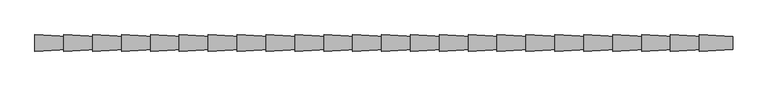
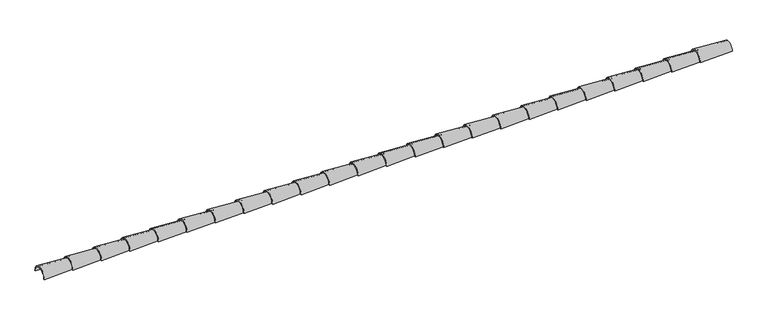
"""IFC4 building model written with IfcOpenShell, lengths in millimetres: proxy geometry, Tuile de faitage & aretier : Tuile de faitage & aretier."""

from ifc_helpers import new_model, si_unit, frame, origin, place, context, project, spatial, polyline, circle_curve, source, transform, mapped, element, save
from ifc_brep_helpers import plane_surface, revolved_surface, advanced_brep


def generic_models_c45b75ca(model_context):
    return source(origin(), model_context, "Body", "AdvancedBrep", [
        advanced_brep(
        [(24042.3188406, -80.0, 0.0), (24042.3188406, -70.0, 0.0), (24042.3188406, 70.0, 0.0), (24042.3188406, 80.0, 0.0), (23642.3188406, -100.0, 0.0), (23642.3188406, 100.0, 0.0), (23642.3188406, 90.0, 0.0), (23642.3188406, -90.0, 0.0)],
        [
            (0, 1),
            (1, 2, circle_curve(frame((24042.3188406, 0.0, 0.0), z_axis=(-1.0, 0.0, 0.0), x_axis=(0.0, -1.0, 0.0)), 70.0)),
            (2, 3),
            (3, 0, circle_curve(frame((24042.3188406, 0.0, 0.0), z_axis=(1.0, 0.0, 0.0), x_axis=(0.0, 1.0, 0.0)), 80.0)),
            (4, 5, circle_curve(frame((23642.3188406, 0.0, 0.0), z_axis=(-1.0, 0.0, 0.0), x_axis=(0.0, 1.0, 0.0)), 100.0)),
            (5, 6),
            (6, 7, circle_curve(frame((23642.3188406, 0.0, 0.0), z_axis=(1.0, 0.0, 0.0), x_axis=(0.0, -1.0, 0.0)), 90.0)),
            (7, 4),
            (7, 1),
            (0, 4),
            (6, 2),
            (5, 3),
        ],
        [
            plane_surface(frame((24042.3188406, 0.0, 0.0), z_axis=(1.0, 0.0, 0.0), x_axis=(0.0, 1.0, -1.4291631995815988e-12))),
            plane_surface(frame((23642.3188406, 0.0, 0.0), z_axis=(-1.0, 0.0, 0.0), x_axis=(0.0, 1.0, -1.4291631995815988e-12))),
            plane_surface(frame((23642.3188406, -95.0, 0.0), z_axis=(0.0, -1.4291631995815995e-12, -1.0), x_axis=(0.0, 1.0, -1.4291631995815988e-12))),
            revolved_surface(polyline([(23642.3188406, -90.0, 0.0), (24042.3188406, -70.0, 0.0)]), (25442.3188406, 0.0, 0.0), (-1.0, 0.0, 0.0)),
            plane_surface(frame((23642.3188406, 95.0, 0.0), z_axis=(0.0, 0.0, -1.0), x_axis=(0.0, 1.0, 0.0))),
            revolved_surface(polyline([(24042.3188406, 80.0, 0.0), (23642.3188406, 100.0, 0.0)]), (25642.3188406, 0.0, 0.0), (-1.0, 0.0, 0.0)),
        ],
        [
            (0, [[1, 2, 3, 4]]),
            (1, [[5, 6, 7, 8]]),
            (2, [[-8, 9, -1, 10]]),
            (3, [[-7, 11, -2, -9]]),
            (4, [[-6, 12, -3, -11]]),
            (5, [[-5, -10, -4, -12]]),
        ],
    ),
        advanced_brep(
        [(23694.6376812, -80.0, 0.0), (23694.6376812, -70.0, 0.0), (23694.6376812, 70.0, 0.0), (23694.6376812, 80.0, 0.0), (23294.6376812, -100.0, 0.0), (23294.6376812, 100.0, 0.0), (23294.6376812, 90.0, 0.0), (23294.6376812, -90.0, 0.0)],
        [
            (0, 1),
            (1, 2, circle_curve(frame((23694.6376812, 0.0, 0.0), z_axis=(-1.0, 0.0, 0.0), x_axis=(0.0, -1.0, 0.0)), 70.0)),
            (2, 3),
            (3, 0, circle_curve(frame((23694.6376812, 0.0, 0.0), z_axis=(1.0, 0.0, 0.0), x_axis=(0.0, 1.0, 0.0)), 80.0)),
            (4, 5, circle_curve(frame((23294.6376812, 0.0, 0.0), z_axis=(-1.0, 0.0, 0.0), x_axis=(0.0, 1.0, 0.0)), 100.0)),
            (5, 6),
            (6, 7, circle_curve(frame((23294.6376812, 0.0, 0.0), z_axis=(1.0, 0.0, 0.0), x_axis=(0.0, -1.0, 0.0)), 90.0)),
            (7, 4),
            (7, 1),
            (0, 4),
            (6, 2),
            (5, 3),
        ],
        [
            plane_surface(frame((23694.6376812, 0.0, 0.0), z_axis=(1.0, 0.0, 0.0), x_axis=(0.0, 1.0, -1.4291631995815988e-12))),
            plane_surface(frame((23294.6376812, 0.0, 0.0), z_axis=(-1.0, 0.0, 0.0), x_axis=(0.0, 1.0, -1.4291631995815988e-12))),
            plane_surface(frame((23294.6376812, -95.0, 0.0), z_axis=(0.0, -1.4291631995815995e-12, -1.0), x_axis=(0.0, 1.0, -1.4291631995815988e-12))),
            revolved_surface(polyline([(23294.6376812, -90.0, 0.0), (23694.6376812, -70.0, 0.0)]), (25094.6376812, 0.0, 0.0), (-1.0, 0.0, 0.0)),
            plane_surface(frame((23294.6376812, 95.0, 0.0), z_axis=(0.0, 0.0, -1.0), x_axis=(0.0, 1.0, 0.0))),
            revolved_surface(polyline([(23694.6376812, 80.0, 0.0), (23294.6376812, 100.0, 0.0)]), (25294.6376812, 0.0, 0.0), (-1.0, 0.0, 0.0)),
        ],
        [
            (0, [[1, 2, 3, 4]]),
            (1, [[5, 6, 7, 8]]),
            (2, [[-8, 9, -1, 10]]),
            (3, [[-7, 11, -2, -9]]),
            (4, [[-6, 12, -3, -11]]),
            (5, [[-5, -10, -4, -12]]),
        ],
    ),
        advanced_brep(
        [(23346.9565217, -80.0, 0.0), (23346.9565217, -70.0, 0.0), (23346.9565217, 70.0, 0.0), (23346.9565217, 80.0, 0.0), (22946.9565217, -100.0, 0.0), (22946.9565217, 100.0, 0.0), (22946.9565217, 90.0, 0.0), (22946.9565217, -90.0, 0.0)],
        [
            (0, 1),
            (1, 2, circle_curve(frame((23346.9565217, 0.0, 0.0), z_axis=(-1.0, 0.0, 0.0), x_axis=(0.0, -1.0, 0.0)), 70.0)),
            (2, 3),
            (3, 0, circle_curve(frame((23346.9565217, 0.0, 0.0), z_axis=(1.0, 0.0, 0.0), x_axis=(0.0, 1.0, 0.0)), 80.0)),
            (4, 5, circle_curve(frame((22946.9565217, 0.0, 0.0), z_axis=(-1.0, 0.0, 0.0), x_axis=(0.0, 1.0, 0.0)), 100.0)),
            (5, 6),
            (6, 7, circle_curve(frame((22946.9565217, 0.0, 0.0), z_axis=(1.0, 0.0, 0.0), x_axis=(0.0, -1.0, 0.0)), 90.0)),
            (7, 4),
            (7, 1),
            (0, 4),
            (6, 2),
            (5, 3),
        ],
        [
            plane_surface(frame((23346.9565217, 0.0, 0.0), z_axis=(1.0, 0.0, 0.0), x_axis=(0.0, 1.0, -1.4291631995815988e-12))),
            plane_surface(frame((22946.9565217, 0.0, 0.0), z_axis=(-1.0, 0.0, 0.0), x_axis=(0.0, 1.0, -1.4291631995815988e-12))),
            plane_surface(frame((22946.9565217, -95.0, 0.0), z_axis=(0.0, -1.4291631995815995e-12, -1.0), x_axis=(0.0, 1.0, -1.4291631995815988e-12))),
            revolved_surface(polyline([(22946.9565217, -90.0, 0.0), (23346.9565217, -70.0, 0.0)]), (24746.9565217, 0.0, 0.0), (-1.0, 0.0, 0.0)),
            plane_surface(frame((22946.9565217, 95.0, 0.0), z_axis=(0.0, 0.0, -1.0), x_axis=(0.0, 1.0, 0.0))),
            revolved_surface(polyline([(23346.9565217, 80.0, 0.0), (22946.9565217, 100.0, 0.0)]), (24946.9565217, 0.0, 0.0), (-1.0, 0.0, 0.0)),
        ],
        [
            (0, [[1, 2, 3, 4]]),
            (1, [[5, 6, 7, 8]]),
            (2, [[-8, 9, -1, 10]]),
            (3, [[-7, 11, -2, -9]]),
            (4, [[-6, 12, -3, -11]]),
            (5, [[-5, -10, -4, -12]]),
        ],
    ),
        advanced_brep(
        [(22999.2753623, -80.0, 0.0), (22999.2753623, -70.0, 0.0), (22999.2753623, 70.0, 0.0), (22999.2753623, 80.0, 0.0), (22599.2753623, -100.0, 0.0), (22599.2753623, 100.0, 0.0), (22599.2753623, 90.0, 0.0), (22599.2753623, -90.0, 0.0)],
        [
            (0, 1),
            (1, 2, circle_curve(frame((22999.2753623, 0.0, 0.0), z_axis=(-1.0, 0.0, 0.0), x_axis=(0.0, -1.0, 0.0)), 70.0)),
            (2, 3),
            (3, 0, circle_curve(frame((22999.2753623, 0.0, 0.0), z_axis=(1.0, 0.0, 0.0), x_axis=(0.0, 1.0, 0.0)), 80.0)),
            (4, 5, circle_curve(frame((22599.2753623, 0.0, 0.0), z_axis=(-1.0, 0.0, 0.0), x_axis=(0.0, 1.0, 0.0)), 100.0)),
            (5, 6),
            (6, 7, circle_curve(frame((22599.2753623, 0.0, 0.0), z_axis=(1.0, 0.0, 0.0), x_axis=(0.0, -1.0, 0.0)), 90.0)),
            (7, 4),
            (7, 1),
            (0, 4),
            (6, 2),
            (5, 3),
        ],
        [
            plane_surface(frame((22999.2753623, 0.0, 0.0), z_axis=(1.0, 0.0, 0.0), x_axis=(0.0, 1.0, -1.4291631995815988e-12))),
            plane_surface(frame((22599.2753623, 0.0, 0.0), z_axis=(-1.0, 0.0, 0.0), x_axis=(0.0, 1.0, -1.4291631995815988e-12))),
            plane_surface(frame((22599.2753623, -95.0, 0.0), z_axis=(0.0, -1.4291631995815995e-12, -1.0), x_axis=(0.0, 1.0, -1.4291631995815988e-12))),
            revolved_surface(polyline([(22599.2753623, -90.0, 0.0), (22999.2753623, -70.0, 0.0)]), (24399.2753623, 0.0, 0.0), (-1.0, 0.0, 0.0)),
            plane_surface(frame((22599.2753623, 95.0, 0.0), z_axis=(0.0, 0.0, -1.0), x_axis=(0.0, 1.0, 0.0))),
            revolved_surface(polyline([(22999.2753623, 80.0, 0.0), (22599.2753623, 100.0, 0.0)]), (24599.2753623, 0.0, 0.0), (-1.0, 0.0, 0.0)),
        ],
        [
            (0, [[1, 2, 3, 4]]),
            (1, [[5, 6, 7, 8]]),
            (2, [[-8, 9, -1, 10]]),
            (3, [[-7, 11, -2, -9]]),
            (4, [[-6, 12, -3, -11]]),
            (5, [[-5, -10, -4, -12]]),
        ],
    ),
        advanced_brep(
        [(22651.5942029, -80.0, 0.0), (22651.5942029, -70.0, 0.0), (22651.5942029, 70.0, 0.0), (22651.5942029, 80.0, 0.0), (22251.5942029, -100.0, 0.0), (22251.5942029, 100.0, 0.0), (22251.5942029, 90.0, 0.0), (22251.5942029, -90.0, 0.0)],
        [
            (0, 1),
            (1, 2, circle_curve(frame((22651.5942029, 0.0, 0.0), z_axis=(-1.0, 0.0, 0.0), x_axis=(0.0, -1.0, 0.0)), 70.0)),
            (2, 3),
            (3, 0, circle_curve(frame((22651.5942029, 0.0, 0.0), z_axis=(1.0, 0.0, 0.0), x_axis=(0.0, 1.0, 0.0)), 80.0)),
            (4, 5, circle_curve(frame((22251.5942029, 0.0, 0.0), z_axis=(-1.0, 0.0, 0.0), x_axis=(0.0, 1.0, 0.0)), 100.0)),
            (5, 6),
            (6, 7, circle_curve(frame((22251.5942029, 0.0, 0.0), z_axis=(1.0, 0.0, 0.0), x_axis=(0.0, -1.0, 0.0)), 90.0)),
            (7, 4),
            (7, 1),
            (0, 4),
            (6, 2),
            (5, 3),
        ],
        [
            plane_surface(frame((22651.5942029, 0.0, 0.0), z_axis=(1.0, 0.0, 0.0), x_axis=(0.0, 1.0, -1.4291631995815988e-12))),
            plane_surface(frame((22251.5942029, 0.0, 0.0), z_axis=(-1.0, 0.0, 0.0), x_axis=(0.0, 1.0, -1.4291631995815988e-12))),
            plane_surface(frame((22251.5942029, -95.0, 0.0), z_axis=(0.0, -1.4291631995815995e-12, -1.0), x_axis=(0.0, 1.0, -1.4291631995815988e-12))),
            revolved_surface(polyline([(22251.5942029, -90.0, 0.0), (22651.5942029, -70.0, 0.0)]), (24051.5942029, 0.0, 0.0), (-1.0, 0.0, 0.0)),
            plane_surface(frame((22251.5942029, 95.0, 0.0), z_axis=(0.0, 0.0, -1.0), x_axis=(0.0, 1.0, 0.0))),
            revolved_surface(polyline([(22651.5942029, 80.0, 0.0), (22251.5942029, 100.0, 0.0)]), (24251.5942029, 0.0, 0.0), (-1.0, 0.0, 0.0)),
        ],
        [
            (0, [[1, 2, 3, 4]]),
            (1, [[5, 6, 7, 8]]),
            (2, [[-8, 9, -1, 10]]),
            (3, [[-7, 11, -2, -9]]),
            (4, [[-6, 12, -3, -11]]),
            (5, [[-5, -10, -4, -12]]),
        ],
    ),
        advanced_brep(
        [(22303.9130435, -80.0, 0.0), (22303.9130435, -70.0, 0.0), (22303.9130435, 70.0, 0.0), (22303.9130435, 80.0, 0.0), (21903.9130435, -100.0, 0.0), (21903.9130435, 100.0, 0.0), (21903.9130435, 90.0, 0.0), (21903.9130435, -90.0, 0.0)],
        [
            (0, 1),
            (1, 2, circle_curve(frame((22303.9130435, 0.0, 0.0), z_axis=(-1.0, 0.0, 0.0), x_axis=(0.0, -1.0, 0.0)), 70.0)),
            (2, 3),
            (3, 0, circle_curve(frame((22303.9130435, 0.0, 0.0), z_axis=(1.0, 0.0, 0.0), x_axis=(0.0, 1.0, 0.0)), 80.0)),
            (4, 5, circle_curve(frame((21903.9130435, 0.0, 0.0), z_axis=(-1.0, 0.0, 0.0), x_axis=(0.0, 1.0, 0.0)), 100.0)),
            (5, 6),
            (6, 7, circle_curve(frame((21903.9130435, 0.0, 0.0), z_axis=(1.0, 0.0, 0.0), x_axis=(0.0, -1.0, 0.0)), 90.0)),
            (7, 4),
            (7, 1),
            (0, 4),
            (6, 2),
            (5, 3),
        ],
        [
            plane_surface(frame((22303.9130435, 0.0, 0.0), z_axis=(1.0, 0.0, 0.0), x_axis=(0.0, 1.0, -1.4291631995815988e-12))),
            plane_surface(frame((21903.9130435, 0.0, 0.0), z_axis=(-1.0, 0.0, 0.0), x_axis=(0.0, 1.0, -1.4291631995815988e-12))),
            plane_surface(frame((21903.9130435, -95.0, 0.0), z_axis=(0.0, -1.4291631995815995e-12, -1.0), x_axis=(0.0, 1.0, -1.4291631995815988e-12))),
            revolved_surface(polyline([(21903.9130435, -90.0, 0.0), (22303.9130435, -70.0, 0.0)]), (23703.9130435, 0.0, 0.0), (-1.0, 0.0, 0.0)),
            plane_surface(frame((21903.9130435, 95.0, 0.0), z_axis=(0.0, 0.0, -1.0), x_axis=(0.0, 1.0, 0.0))),
            revolved_surface(polyline([(22303.9130435, 80.0, 0.0), (21903.9130435, 100.0, 0.0)]), (23903.9130435, 0.0, 0.0), (-1.0, 0.0, 0.0)),
        ],
        [
            (0, [[1, 2, 3, 4]]),
            (1, [[5, 6, 7, 8]]),
            (2, [[-8, 9, -1, 10]]),
            (3, [[-7, 11, -2, -9]]),
            (4, [[-6, 12, -3, -11]]),
            (5, [[-5, -10, -4, -12]]),
        ],
    ),
        advanced_brep(
        [(21956.2318841, -80.0, 0.0), (21956.2318841, -70.0, 0.0), (21956.2318841, 70.0, 0.0), (21956.2318841, 80.0, 0.0), (21556.2318841, -100.0, 0.0), (21556.2318841, 100.0, 0.0), (21556.2318841, 90.0, 0.0), (21556.2318841, -90.0, 0.0)],
        [
            (0, 1),
            (1, 2, circle_curve(frame((21956.2318841, 0.0, 0.0), z_axis=(-1.0, 0.0, 0.0), x_axis=(0.0, -1.0, 0.0)), 70.0)),
            (2, 3),
            (3, 0, circle_curve(frame((21956.2318841, 0.0, 0.0), z_axis=(1.0, 0.0, 0.0), x_axis=(0.0, 1.0, 0.0)), 80.0)),
            (4, 5, circle_curve(frame((21556.2318841, 0.0, 0.0), z_axis=(-1.0, 0.0, 0.0), x_axis=(0.0, 1.0, 0.0)), 100.0)),
            (5, 6),
            (6, 7, circle_curve(frame((21556.2318841, 0.0, 0.0), z_axis=(1.0, 0.0, 0.0), x_axis=(0.0, -1.0, 0.0)), 90.0)),
            (7, 4),
            (7, 1),
            (0, 4),
            (6, 2),
            (5, 3),
        ],
        [
            plane_surface(frame((21956.2318841, 0.0, 0.0), z_axis=(1.0, 0.0, 0.0), x_axis=(0.0, 1.0, -1.4291631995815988e-12))),
            plane_surface(frame((21556.2318841, 0.0, 0.0), z_axis=(-1.0, 0.0, 0.0), x_axis=(0.0, 1.0, -1.4291631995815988e-12))),
            plane_surface(frame((21556.2318841, -95.0, 0.0), z_axis=(0.0, -1.4291631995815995e-12, -1.0), x_axis=(0.0, 1.0, -1.4291631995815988e-12))),
            revolved_surface(polyline([(21556.2318841, -90.0, 0.0), (21956.2318841, -70.0, 0.0)]), (23356.2318841, 0.0, 0.0), (-1.0, 0.0, 0.0)),
            plane_surface(frame((21556.2318841, 95.0, 0.0), z_axis=(0.0, 0.0, -1.0), x_axis=(0.0, 1.0, 0.0))),
            revolved_surface(polyline([(21956.2318841, 80.0, 0.0), (21556.2318841, 100.0, 0.0)]), (23556.2318841, 0.0, 0.0), (-1.0, 0.0, 0.0)),
        ],
        [
            (0, [[1, 2, 3, 4]]),
            (1, [[5, 6, 7, 8]]),
            (2, [[-8, 9, -1, 10]]),
            (3, [[-7, 11, -2, -9]]),
            (4, [[-6, 12, -3, -11]]),
            (5, [[-5, -10, -4, -12]]),
        ],
    ),
        advanced_brep(
        [(21608.5507246, -80.0, 0.0), (21608.5507246, -70.0, 0.0), (21608.5507246, 70.0, 0.0), (21608.5507246, 80.0, 0.0), (21208.5507246, -100.0, 0.0), (21208.5507246, 100.0, 0.0), (21208.5507246, 90.0, 0.0), (21208.5507246, -90.0, 0.0)],
        [
            (0, 1),
            (1, 2, circle_curve(frame((21608.5507246, 0.0, 0.0), z_axis=(-1.0, 0.0, 0.0), x_axis=(0.0, -1.0, 0.0)), 70.0)),
            (2, 3),
            (3, 0, circle_curve(frame((21608.5507246, 0.0, 0.0), z_axis=(1.0, 0.0, 0.0), x_axis=(0.0, 1.0, 0.0)), 80.0)),
            (4, 5, circle_curve(frame((21208.5507246, 0.0, 0.0), z_axis=(-1.0, 0.0, 0.0), x_axis=(0.0, 1.0, 0.0)), 100.0)),
            (5, 6),
            (6, 7, circle_curve(frame((21208.5507246, 0.0, 0.0), z_axis=(1.0, 0.0, 0.0), x_axis=(0.0, -1.0, 0.0)), 90.0)),
            (7, 4),
            (7, 1),
            (0, 4),
            (6, 2),
            (5, 3),
        ],
        [
            plane_surface(frame((21608.5507246, 0.0, 0.0), z_axis=(1.0, 0.0, 0.0), x_axis=(0.0, 1.0, -1.4291631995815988e-12))),
            plane_surface(frame((21208.5507246, 0.0, 0.0), z_axis=(-1.0, 0.0, 0.0), x_axis=(0.0, 1.0, -1.4291631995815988e-12))),
            plane_surface(frame((21208.5507246, -95.0, 0.0), z_axis=(0.0, -1.4291631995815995e-12, -1.0), x_axis=(0.0, 1.0, -1.4291631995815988e-12))),
            revolved_surface(polyline([(21208.5507246, -90.0, 0.0), (21608.5507246, -70.0, 0.0)]), (23008.5507246, 0.0, 0.0), (-1.0, 0.0, 0.0)),
            plane_surface(frame((21208.5507246, 95.0, 0.0), z_axis=(0.0, 0.0, -1.0), x_axis=(0.0, 1.0, 0.0))),
            revolved_surface(polyline([(21608.5507246, 80.0, 0.0), (21208.5507246, 100.0, 0.0)]), (23208.5507246, 0.0, 0.0), (-1.0, 0.0, 0.0)),
        ],
        [
            (0, [[1, 2, 3, 4]]),
            (1, [[5, 6, 7, 8]]),
            (2, [[-8, 9, -1, 10]]),
            (3, [[-7, 11, -2, -9]]),
            (4, [[-6, 12, -3, -11]]),
            (5, [[-5, -10, -4, -12]]),
        ],
    ),
        advanced_brep(
        [(21260.8695652, -80.0, 0.0), (21260.8695652, -70.0, 0.0), (21260.8695652, 70.0, 0.0), (21260.8695652, 80.0, 0.0), (20860.8695652, -100.0, 0.0), (20860.8695652, 100.0, 0.0), (20860.8695652, 90.0, 0.0), (20860.8695652, -90.0, 0.0)],
        [
            (0, 1),
            (1, 2, circle_curve(frame((21260.8695652, 0.0, 0.0), z_axis=(-1.0, 0.0, 0.0), x_axis=(0.0, -1.0, 0.0)), 70.0)),
            (2, 3),
            (3, 0, circle_curve(frame((21260.8695652, 0.0, 0.0), z_axis=(1.0, 0.0, 0.0), x_axis=(0.0, 1.0, 0.0)), 80.0)),
            (4, 5, circle_curve(frame((20860.8695652, 0.0, 0.0), z_axis=(-1.0, 0.0, 0.0), x_axis=(0.0, 1.0, 0.0)), 100.0)),
            (5, 6),
            (6, 7, circle_curve(frame((20860.8695652, 0.0, 0.0), z_axis=(1.0, 0.0, 0.0), x_axis=(0.0, -1.0, 0.0)), 90.0)),
            (7, 4),
            (7, 1),
            (0, 4),
            (6, 2),
            (5, 3),
        ],
        [
            plane_surface(frame((21260.8695652, 0.0, 0.0), z_axis=(1.0, 0.0, 0.0), x_axis=(0.0, 1.0, -1.4291631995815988e-12))),
            plane_surface(frame((20860.8695652, 0.0, 0.0), z_axis=(-1.0, 0.0, 0.0), x_axis=(0.0, 1.0, -1.4291631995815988e-12))),
            plane_surface(frame((20860.8695652, -95.0, 0.0), z_axis=(0.0, -1.4291631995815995e-12, -1.0), x_axis=(0.0, 1.0, -1.4291631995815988e-12))),
            revolved_surface(polyline([(20860.8695652, -90.0, 0.0), (21260.8695652, -70.0, 0.0)]), (22660.8695652, 0.0, 0.0), (-1.0, 0.0, 0.0)),
            plane_surface(frame((20860.8695652, 95.0, 0.0), z_axis=(0.0, 0.0, -1.0), x_axis=(0.0, 1.0, 0.0))),
            revolved_surface(polyline([(21260.8695652, 80.0, 0.0), (20860.8695652, 100.0, 0.0)]), (22860.8695652, 0.0, 0.0), (-1.0, 0.0, 0.0)),
        ],
        [
            (0, [[1, 2, 3, 4]]),
            (1, [[5, 6, 7, 8]]),
            (2, [[-8, 9, -1, 10]]),
            (3, [[-7, 11, -2, -9]]),
            (4, [[-6, 12, -3, -11]]),
            (5, [[-5, -10, -4, -12]]),
        ],
    ),
        advanced_brep(
        [(20913.1884058, -80.0, 0.0), (20913.1884058, -70.0, 0.0), (20913.1884058, 70.0, 0.0), (20913.1884058, 80.0, 0.0), (20513.1884058, -100.0, 0.0), (20513.1884058, 100.0, 0.0), (20513.1884058, 90.0, 0.0), (20513.1884058, -90.0, 0.0)],
        [
            (0, 1),
            (1, 2, circle_curve(frame((20913.1884058, 0.0, 0.0), z_axis=(-1.0, 0.0, 0.0), x_axis=(0.0, -1.0, 0.0)), 70.0)),
            (2, 3),
            (3, 0, circle_curve(frame((20913.1884058, 0.0, 0.0), z_axis=(1.0, 0.0, 0.0), x_axis=(0.0, 1.0, 0.0)), 80.0)),
            (4, 5, circle_curve(frame((20513.1884058, 0.0, 0.0), z_axis=(-1.0, 0.0, 0.0), x_axis=(0.0, 1.0, 0.0)), 100.0)),
            (5, 6),
            (6, 7, circle_curve(frame((20513.1884058, 0.0, 0.0), z_axis=(1.0, 0.0, 0.0), x_axis=(0.0, -1.0, 0.0)), 90.0)),
            (7, 4),
            (7, 1),
            (0, 4),
            (6, 2),
            (5, 3),
        ],
        [
            plane_surface(frame((20913.1884058, 0.0, 0.0), z_axis=(1.0, 0.0, 0.0), x_axis=(0.0, 1.0, -1.4291631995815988e-12))),
            plane_surface(frame((20513.1884058, 0.0, 0.0), z_axis=(-1.0, 0.0, 0.0), x_axis=(0.0, 1.0, -1.4291631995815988e-12))),
            plane_surface(frame((20513.1884058, -95.0, 0.0), z_axis=(0.0, -1.4291631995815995e-12, -1.0), x_axis=(0.0, 1.0, -1.4291631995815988e-12))),
            revolved_surface(polyline([(20513.1884058, -90.0, 0.0), (20913.1884058, -70.0, 0.0)]), (22313.1884058, 0.0, 0.0), (-1.0, 0.0, 0.0)),
            plane_surface(frame((20513.1884058, 95.0, 0.0), z_axis=(0.0, 0.0, -1.0), x_axis=(0.0, 1.0, 0.0))),
            revolved_surface(polyline([(20913.1884058, 80.0, 0.0), (20513.1884058, 100.0, 0.0)]), (22513.1884058, 0.0, 0.0), (-1.0, 0.0, 0.0)),
        ],
        [
            (0, [[1, 2, 3, 4]]),
            (1, [[5, 6, 7, 8]]),
            (2, [[-8, 9, -1, 10]]),
            (3, [[-7, 11, -2, -9]]),
            (4, [[-6, 12, -3, -11]]),
            (5, [[-5, -10, -4, -12]]),
        ],
    ),
        advanced_brep(
        [(20565.5072464, -80.0, 0.0), (20565.5072464, -70.0, 0.0), (20565.5072464, 70.0, 0.0), (20565.5072464, 80.0, 0.0), (20165.5072464, -100.0, 0.0), (20165.5072464, 100.0, 0.0), (20165.5072464, 90.0, 0.0), (20165.5072464, -90.0, 0.0)],
        [
            (0, 1),
            (1, 2, circle_curve(frame((20565.5072464, 0.0, 0.0), z_axis=(-1.0, 0.0, 0.0), x_axis=(0.0, -1.0, 0.0)), 70.0)),
            (2, 3),
            (3, 0, circle_curve(frame((20565.5072464, 0.0, 0.0), z_axis=(1.0, 0.0, 0.0), x_axis=(0.0, 1.0, 0.0)), 80.0)),
            (4, 5, circle_curve(frame((20165.5072464, 0.0, 0.0), z_axis=(-1.0, 0.0, 0.0), x_axis=(0.0, 1.0, 0.0)), 100.0)),
            (5, 6),
            (6, 7, circle_curve(frame((20165.5072464, 0.0, 0.0), z_axis=(1.0, 0.0, 0.0), x_axis=(0.0, -1.0, 0.0)), 90.0)),
            (7, 4),
            (7, 1),
            (0, 4),
            (6, 2),
            (5, 3),
        ],
        [
            plane_surface(frame((20565.5072464, 0.0, 0.0), z_axis=(1.0, 0.0, 0.0), x_axis=(0.0, 1.0, -1.4291631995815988e-12))),
            plane_surface(frame((20165.5072464, 0.0, 0.0), z_axis=(-1.0, 0.0, 0.0), x_axis=(0.0, 1.0, -1.4291631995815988e-12))),
            plane_surface(frame((20165.5072464, -95.0, 0.0), z_axis=(0.0, -1.4291631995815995e-12, -1.0), x_axis=(0.0, 1.0, -1.4291631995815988e-12))),
            revolved_surface(polyline([(20165.5072464, -90.0, 0.0), (20565.5072464, -70.0, 0.0)]), (21965.5072464, 0.0, 0.0), (-1.0, 0.0, 0.0)),
            plane_surface(frame((20165.5072464, 95.0, 0.0), z_axis=(0.0, 0.0, -1.0), x_axis=(0.0, 1.0, 0.0))),
            revolved_surface(polyline([(20565.5072464, 80.0, 0.0), (20165.5072464, 100.0, 0.0)]), (22165.5072464, 0.0, 0.0), (-1.0, 0.0, 0.0)),
        ],
        [
            (0, [[1, 2, 3, 4]]),
            (1, [[5, 6, 7, 8]]),
            (2, [[-8, 9, -1, 10]]),
            (3, [[-7, 11, -2, -9]]),
            (4, [[-6, 12, -3, -11]]),
            (5, [[-5, -10, -4, -12]]),
        ],
    ),
        advanced_brep(
        [(20217.826087, -80.0, 0.0), (20217.826087, -70.0, 0.0), (20217.826087, 70.0, 0.0), (20217.826087, 80.0, 0.0), (19817.826087, -100.0, 0.0), (19817.826087, 100.0, 0.0), (19817.826087, 90.0, 0.0), (19817.826087, -90.0, 0.0)],
        [
            (0, 1),
            (1, 2, circle_curve(frame((20217.826087, 0.0, 0.0), z_axis=(-1.0, 0.0, 0.0), x_axis=(0.0, -1.0, 0.0)), 70.0)),
            (2, 3),
            (3, 0, circle_curve(frame((20217.826087, 0.0, 0.0), z_axis=(1.0, 0.0, 0.0), x_axis=(0.0, 1.0, 0.0)), 80.0)),
            (4, 5, circle_curve(frame((19817.826087, 0.0, 0.0), z_axis=(-1.0, 0.0, 0.0), x_axis=(0.0, 1.0, 0.0)), 100.0)),
            (5, 6),
            (6, 7, circle_curve(frame((19817.826087, 0.0, 0.0), z_axis=(1.0, 0.0, 0.0), x_axis=(0.0, -1.0, 0.0)), 90.0)),
            (7, 4),
            (7, 1),
            (0, 4),
            (6, 2),
            (5, 3),
        ],
        [
            plane_surface(frame((20217.826087, 0.0, 0.0), z_axis=(1.0, 0.0, 0.0), x_axis=(0.0, 1.0, -1.4291631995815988e-12))),
            plane_surface(frame((19817.826087, 0.0, 0.0), z_axis=(-1.0, 0.0, 0.0), x_axis=(0.0, 1.0, -1.4291631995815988e-12))),
            plane_surface(frame((19817.826087, -95.0, 0.0), z_axis=(0.0, -1.4291631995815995e-12, -1.0), x_axis=(0.0, 1.0, -1.4291631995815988e-12))),
            revolved_surface(polyline([(19817.826087, -90.0, 0.0), (20217.826087, -70.0, 0.0)]), (21617.826087, 0.0, 0.0), (-1.0, 0.0, 0.0)),
            plane_surface(frame((19817.826087, 95.0, 0.0), z_axis=(0.0, 0.0, -1.0), x_axis=(0.0, 1.0, 0.0))),
            revolved_surface(polyline([(20217.826087, 80.0, 0.0), (19817.826087, 100.0, 0.0)]), (21817.826087, 0.0, 0.0), (-1.0, 0.0, 0.0)),
        ],
        [
            (0, [[1, 2, 3, 4]]),
            (1, [[5, 6, 7, 8]]),
            (2, [[-8, 9, -1, 10]]),
            (3, [[-7, 11, -2, -9]]),
            (4, [[-6, 12, -3, -11]]),
            (5, [[-5, -10, -4, -12]]),
        ],
    ),
        advanced_brep(
        [(19870.1449275, -80.0, 0.0), (19870.1449275, -70.0, 0.0), (19870.1449275, 70.0, 0.0), (19870.1449275, 80.0, 0.0), (19470.1449275, -100.0, 0.0), (19470.1449275, 100.0, 0.0), (19470.1449275, 90.0, 0.0), (19470.1449275, -90.0, 0.0)],
        [
            (0, 1),
            (1, 2, circle_curve(frame((19870.1449275, 0.0, 0.0), z_axis=(-1.0, 0.0, 0.0), x_axis=(0.0, -1.0, 0.0)), 70.0)),
            (2, 3),
            (3, 0, circle_curve(frame((19870.1449275, 0.0, 0.0), z_axis=(1.0, 0.0, 0.0), x_axis=(0.0, 1.0, 0.0)), 80.0)),
            (4, 5, circle_curve(frame((19470.1449275, 0.0, 0.0), z_axis=(-1.0, 0.0, 0.0), x_axis=(0.0, 1.0, 0.0)), 100.0)),
            (5, 6),
            (6, 7, circle_curve(frame((19470.1449275, 0.0, 0.0), z_axis=(1.0, 0.0, 0.0), x_axis=(0.0, -1.0, 0.0)), 90.0)),
            (7, 4),
            (7, 1),
            (0, 4),
            (6, 2),
            (5, 3),
        ],
        [
            plane_surface(frame((19870.1449275, 0.0, 0.0), z_axis=(1.0, 0.0, 0.0), x_axis=(0.0, 1.0, -1.4291631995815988e-12))),
            plane_surface(frame((19470.1449275, 0.0, 0.0), z_axis=(-1.0, 0.0, 0.0), x_axis=(0.0, 1.0, -1.4291631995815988e-12))),
            plane_surface(frame((19470.1449275, -95.0, 0.0), z_axis=(0.0, -1.4291631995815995e-12, -1.0), x_axis=(0.0, 1.0, -1.4291631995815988e-12))),
            revolved_surface(polyline([(19470.1449275, -90.0, 0.0), (19870.1449275, -70.0, 0.0)]), (21270.1449275, 0.0, 0.0), (-1.0, 0.0, 0.0)),
            plane_surface(frame((19470.1449275, 95.0, 0.0), z_axis=(0.0, 0.0, -1.0), x_axis=(0.0, 1.0, 0.0))),
            revolved_surface(polyline([(19870.1449275, 80.0, 0.0), (19470.1449275, 100.0, 0.0)]), (21470.1449275, 0.0, 0.0), (-1.0, 0.0, 0.0)),
        ],
        [
            (0, [[1, 2, 3, 4]]),
            (1, [[5, 6, 7, 8]]),
            (2, [[-8, 9, -1, 10]]),
            (3, [[-7, 11, -2, -9]]),
            (4, [[-6, 12, -3, -11]]),
            (5, [[-5, -10, -4, -12]]),
        ],
    ),
        advanced_brep(
        [(19522.4637681, -80.0, 0.0), (19522.4637681, -70.0, 0.0), (19522.4637681, 70.0, 0.0), (19522.4637681, 80.0, 0.0), (19122.4637681, -100.0, 0.0), (19122.4637681, 100.0, 0.0), (19122.4637681, 90.0, 0.0), (19122.4637681, -90.0, 0.0)],
        [
            (0, 1),
            (1, 2, circle_curve(frame((19522.4637681, 0.0, 0.0), z_axis=(-1.0, 0.0, 0.0), x_axis=(0.0, -1.0, 0.0)), 70.0)),
            (2, 3),
            (3, 0, circle_curve(frame((19522.4637681, 0.0, 0.0), z_axis=(1.0, 0.0, 0.0), x_axis=(0.0, 1.0, 0.0)), 80.0)),
            (4, 5, circle_curve(frame((19122.4637681, 0.0, 0.0), z_axis=(-1.0, 0.0, 0.0), x_axis=(0.0, 1.0, 0.0)), 100.0)),
            (5, 6),
            (6, 7, circle_curve(frame((19122.4637681, 0.0, 0.0), z_axis=(1.0, 0.0, 0.0), x_axis=(0.0, -1.0, 0.0)), 90.0)),
            (7, 4),
            (7, 1),
            (0, 4),
            (6, 2),
            (5, 3),
        ],
        [
            plane_surface(frame((19522.4637681, 0.0, 0.0), z_axis=(1.0, 0.0, 0.0), x_axis=(0.0, 1.0, -1.4291631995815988e-12))),
            plane_surface(frame((19122.4637681, 0.0, 0.0), z_axis=(-1.0, 0.0, 0.0), x_axis=(0.0, 1.0, -1.4291631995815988e-12))),
            plane_surface(frame((19122.4637681, -95.0, 0.0), z_axis=(0.0, -1.4291631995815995e-12, -1.0), x_axis=(0.0, 1.0, -1.4291631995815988e-12))),
            revolved_surface(polyline([(19122.4637681, -90.0, 0.0), (19522.4637681, -70.0, 0.0)]), (20922.4637681, 0.0, 0.0), (-1.0, 0.0, 0.0)),
            plane_surface(frame((19122.4637681, 95.0, 0.0), z_axis=(0.0, 0.0, -1.0), x_axis=(0.0, 1.0, 0.0))),
            revolved_surface(polyline([(19522.4637681, 80.0, 0.0), (19122.4637681, 100.0, 0.0)]), (21122.4637681, 0.0, 0.0), (-1.0, 0.0, 0.0)),
        ],
        [
            (0, [[1, 2, 3, 4]]),
            (1, [[5, 6, 7, 8]]),
            (2, [[-8, 9, -1, 10]]),
            (3, [[-7, 11, -2, -9]]),
            (4, [[-6, 12, -3, -11]]),
            (5, [[-5, -10, -4, -12]]),
        ],
    ),
        advanced_brep(
        [(19174.7826087, -80.0, 0.0), (19174.7826087, -70.0, 0.0), (19174.7826087, 70.0, 0.0), (19174.7826087, 80.0, 0.0), (18774.7826087, -100.0, 0.0), (18774.7826087, 100.0, 0.0), (18774.7826087, 90.0, 0.0), (18774.7826087, -90.0, 0.0)],
        [
            (0, 1),
            (1, 2, circle_curve(frame((19174.7826087, 0.0, 0.0), z_axis=(-1.0, 0.0, 0.0), x_axis=(0.0, -1.0, 0.0)), 70.0)),
            (2, 3),
            (3, 0, circle_curve(frame((19174.7826087, 0.0, 0.0), z_axis=(1.0, 0.0, 0.0), x_axis=(0.0, 1.0, 0.0)), 80.0)),
            (4, 5, circle_curve(frame((18774.7826087, 0.0, 0.0), z_axis=(-1.0, 0.0, 0.0), x_axis=(0.0, 1.0, 0.0)), 100.0)),
            (5, 6),
            (6, 7, circle_curve(frame((18774.7826087, 0.0, 0.0), z_axis=(1.0, 0.0, 0.0), x_axis=(0.0, -1.0, 0.0)), 90.0)),
            (7, 4),
            (7, 1),
            (0, 4),
            (6, 2),
            (5, 3),
        ],
        [
            plane_surface(frame((19174.7826087, 0.0, 0.0), z_axis=(1.0, 0.0, 0.0), x_axis=(0.0, 1.0, -1.4291631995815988e-12))),
            plane_surface(frame((18774.7826087, 0.0, 0.0), z_axis=(-1.0, 0.0, 0.0), x_axis=(0.0, 1.0, -1.4291631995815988e-12))),
            plane_surface(frame((18774.7826087, -95.0, 0.0), z_axis=(0.0, -1.4291631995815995e-12, -1.0), x_axis=(0.0, 1.0, -1.4291631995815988e-12))),
            revolved_surface(polyline([(18774.7826087, -90.0, 0.0), (19174.7826087, -70.0, 0.0)]), (20574.7826087, 0.0, 0.0), (-1.0, 0.0, 0.0)),
            plane_surface(frame((18774.7826087, 95.0, 0.0), z_axis=(0.0, 0.0, -1.0), x_axis=(0.0, 1.0, 0.0))),
            revolved_surface(polyline([(19174.7826087, 80.0, 0.0), (18774.7826087, 100.0, 0.0)]), (20774.7826087, 0.0, 0.0), (-1.0, 0.0, 0.0)),
        ],
        [
            (0, [[1, 2, 3, 4]]),
            (1, [[5, 6, 7, 8]]),
            (2, [[-8, 9, -1, 10]]),
            (3, [[-7, 11, -2, -9]]),
            (4, [[-6, 12, -3, -11]]),
            (5, [[-5, -10, -4, -12]]),
        ],
    ),
        advanced_brep(
        [(18827.1014493, -80.0, 0.0), (18827.1014493, -70.0, 0.0), (18827.1014493, 70.0, 0.0), (18827.1014493, 80.0, 0.0), (18427.1014493, -100.0, 0.0), (18427.1014493, 100.0, 0.0), (18427.1014493, 90.0, 0.0), (18427.1014493, -90.0, 0.0)],
        [
            (0, 1),
            (1, 2, circle_curve(frame((18827.1014493, 0.0, 0.0), z_axis=(-1.0, 0.0, 0.0), x_axis=(0.0, -1.0, 0.0)), 70.0)),
            (2, 3),
            (3, 0, circle_curve(frame((18827.1014493, 0.0, 0.0), z_axis=(1.0, 0.0, 0.0), x_axis=(0.0, 1.0, 0.0)), 80.0)),
            (4, 5, circle_curve(frame((18427.1014493, 0.0, 0.0), z_axis=(-1.0, 0.0, 0.0), x_axis=(0.0, 1.0, 0.0)), 100.0)),
            (5, 6),
            (6, 7, circle_curve(frame((18427.1014493, 0.0, 0.0), z_axis=(1.0, 0.0, 0.0), x_axis=(0.0, -1.0, 0.0)), 90.0)),
            (7, 4),
            (7, 1),
            (0, 4),
            (6, 2),
            (5, 3),
        ],
        [
            plane_surface(frame((18827.1014493, 0.0, 0.0), z_axis=(1.0, 0.0, 0.0), x_axis=(0.0, 1.0, -1.4291631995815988e-12))),
            plane_surface(frame((18427.1014493, 0.0, 0.0), z_axis=(-1.0, 0.0, 0.0), x_axis=(0.0, 1.0, -1.4291631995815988e-12))),
            plane_surface(frame((18427.1014493, -95.0, 0.0), z_axis=(0.0, -1.4291631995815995e-12, -1.0), x_axis=(0.0, 1.0, -1.4291631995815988e-12))),
            revolved_surface(polyline([(18427.1014493, -90.0, 0.0), (18827.1014493, -70.0, 0.0)]), (20227.1014493, 0.0, 0.0), (-1.0, 0.0, 0.0)),
            plane_surface(frame((18427.1014493, 95.0, 0.0), z_axis=(0.0, 0.0, -1.0), x_axis=(0.0, 1.0, 0.0))),
            revolved_surface(polyline([(18827.1014493, 80.0, 0.0), (18427.1014493, 100.0, 0.0)]), (20427.1014493, 0.0, 0.0), (-1.0, 0.0, 0.0)),
        ],
        [
            (0, [[1, 2, 3, 4]]),
            (1, [[5, 6, 7, 8]]),
            (2, [[-8, 9, -1, 10]]),
            (3, [[-7, 11, -2, -9]]),
            (4, [[-6, 12, -3, -11]]),
            (5, [[-5, -10, -4, -12]]),
        ],
    ),
        advanced_brep(
        [(18479.4202899, -80.0, 0.0), (18479.4202899, -70.0, 0.0), (18479.4202899, 70.0, 0.0), (18479.4202899, 80.0, 0.0), (18079.4202899, -100.0, 0.0), (18079.4202899, 100.0, 0.0), (18079.4202899, 90.0, 0.0), (18079.4202899, -90.0, 0.0)],
        [
            (0, 1),
            (1, 2, circle_curve(frame((18479.4202899, 0.0, 0.0), z_axis=(-1.0, 0.0, 0.0), x_axis=(0.0, -1.0, 0.0)), 70.0)),
            (2, 3),
            (3, 0, circle_curve(frame((18479.4202899, 0.0, 0.0), z_axis=(1.0, 0.0, 0.0), x_axis=(0.0, 1.0, 0.0)), 80.0)),
            (4, 5, circle_curve(frame((18079.4202899, 0.0, 0.0), z_axis=(-1.0, 0.0, 0.0), x_axis=(0.0, 1.0, 0.0)), 100.0)),
            (5, 6),
            (6, 7, circle_curve(frame((18079.4202899, 0.0, 0.0), z_axis=(1.0, 0.0, 0.0), x_axis=(0.0, -1.0, 0.0)), 90.0)),
            (7, 4),
            (7, 1),
            (0, 4),
            (6, 2),
            (5, 3),
        ],
        [
            plane_surface(frame((18479.4202899, 0.0, 0.0), z_axis=(1.0, 0.0, 0.0), x_axis=(0.0, 1.0, -1.4291631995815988e-12))),
            plane_surface(frame((18079.4202899, 0.0, 0.0), z_axis=(-1.0, 0.0, 0.0), x_axis=(0.0, 1.0, -1.4291631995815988e-12))),
            plane_surface(frame((18079.4202899, -95.0, 0.0), z_axis=(0.0, -1.4291631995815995e-12, -1.0), x_axis=(0.0, 1.0, -1.4291631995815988e-12))),
            revolved_surface(polyline([(18079.4202899, -90.0, 0.0), (18479.4202899, -70.0, 0.0)]), (19879.4202899, 0.0, 0.0), (-1.0, 0.0, 0.0)),
            plane_surface(frame((18079.4202899, 95.0, 0.0), z_axis=(0.0, 0.0, -1.0), x_axis=(0.0, 1.0, 0.0))),
            revolved_surface(polyline([(18479.4202899, 80.0, 0.0), (18079.4202899, 100.0, 0.0)]), (20079.4202899, 0.0, 0.0), (-1.0, 0.0, 0.0)),
        ],
        [
            (0, [[1, 2, 3, 4]]),
            (1, [[5, 6, 7, 8]]),
            (2, [[-8, 9, -1, 10]]),
            (3, [[-7, 11, -2, -9]]),
            (4, [[-6, 12, -3, -11]]),
            (5, [[-5, -10, -4, -12]]),
        ],
    ),
        advanced_brep(
        [(18131.7391304, -80.0, 0.0), (18131.7391304, -70.0, 0.0), (18131.7391304, 70.0, 0.0), (18131.7391304, 80.0, 0.0), (17731.7391304, -100.0, 0.0), (17731.7391304, 100.0, 0.0), (17731.7391304, 90.0, 0.0), (17731.7391304, -90.0, 0.0)],
        [
            (0, 1),
            (1, 2, circle_curve(frame((18131.7391304, 0.0, 0.0), z_axis=(-1.0, 0.0, 0.0), x_axis=(0.0, -1.0, 0.0)), 70.0)),
            (2, 3),
            (3, 0, circle_curve(frame((18131.7391304, 0.0, 0.0), z_axis=(1.0, 0.0, 0.0), x_axis=(0.0, 1.0, 0.0)), 80.0)),
            (4, 5, circle_curve(frame((17731.7391304, 0.0, 0.0), z_axis=(-1.0, 0.0, 0.0), x_axis=(0.0, 1.0, 0.0)), 100.0)),
            (5, 6),
            (6, 7, circle_curve(frame((17731.7391304, 0.0, 0.0), z_axis=(1.0, 0.0, 0.0), x_axis=(0.0, -1.0, 0.0)), 90.0)),
            (7, 4),
            (7, 1),
            (0, 4),
            (6, 2),
            (5, 3),
        ],
        [
            plane_surface(frame((18131.7391304, 0.0, 0.0), z_axis=(1.0, 0.0, 0.0), x_axis=(0.0, 1.0, -1.4291631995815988e-12))),
            plane_surface(frame((17731.7391304, 0.0, 0.0), z_axis=(-1.0, 0.0, 0.0), x_axis=(0.0, 1.0, -1.4291631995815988e-12))),
            plane_surface(frame((17731.7391304, -95.0, 0.0), z_axis=(0.0, -1.4291631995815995e-12, -1.0), x_axis=(0.0, 1.0, -1.4291631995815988e-12))),
            revolved_surface(polyline([(17731.7391304, -90.0, 0.0), (18131.7391304, -70.0, 0.0)]), (19531.7391304, 0.0, 0.0), (-1.0, 0.0, 0.0)),
            plane_surface(frame((17731.7391304, 95.0, 0.0), z_axis=(0.0, 0.0, -1.0), x_axis=(0.0, 1.0, 0.0))),
            revolved_surface(polyline([(18131.7391304, 80.0, 0.0), (17731.7391304, 100.0, 0.0)]), (19731.7391304, 0.0, 0.0), (-1.0, 0.0, 0.0)),
        ],
        [
            (0, [[1, 2, 3, 4]]),
            (1, [[5, 6, 7, 8]]),
            (2, [[-8, 9, -1, 10]]),
            (3, [[-7, 11, -2, -9]]),
            (4, [[-6, 12, -3, -11]]),
            (5, [[-5, -10, -4, -12]]),
        ],
    ),
        advanced_brep(
        [(17784.057971, -80.0, 0.0), (17784.057971, -70.0, 0.0), (17784.057971, 70.0, 0.0), (17784.057971, 80.0, 0.0), (17384.057971, -100.0, 0.0), (17384.057971, 100.0, 0.0), (17384.057971, 90.0, 0.0), (17384.057971, -90.0, 0.0)],
        [
            (0, 1),
            (1, 2, circle_curve(frame((17784.057971, 0.0, 0.0), z_axis=(-1.0, 0.0, 0.0), x_axis=(0.0, -1.0, 0.0)), 70.0)),
            (2, 3),
            (3, 0, circle_curve(frame((17784.057971, 0.0, 0.0), z_axis=(1.0, 0.0, 0.0), x_axis=(0.0, 1.0, 0.0)), 80.0)),
            (4, 5, circle_curve(frame((17384.057971, 0.0, 0.0), z_axis=(-1.0, 0.0, 0.0), x_axis=(0.0, 1.0, 0.0)), 100.0)),
            (5, 6),
            (6, 7, circle_curve(frame((17384.057971, 0.0, 0.0), z_axis=(1.0, 0.0, 0.0), x_axis=(0.0, -1.0, 0.0)), 90.0)),
            (7, 4),
            (7, 1),
            (0, 4),
            (6, 2),
            (5, 3),
        ],
        [
            plane_surface(frame((17784.057971, 0.0, 0.0), z_axis=(1.0, 0.0, 0.0), x_axis=(0.0, 1.0, -1.4291631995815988e-12))),
            plane_surface(frame((17384.057971, 0.0, 0.0), z_axis=(-1.0, 0.0, 0.0), x_axis=(0.0, 1.0, -1.4291631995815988e-12))),
            plane_surface(frame((17384.057971, -95.0, 0.0), z_axis=(0.0, -1.4291631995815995e-12, -1.0), x_axis=(0.0, 1.0, -1.4291631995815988e-12))),
            revolved_surface(polyline([(17384.057971, -90.0, 0.0), (17784.057971, -70.0, 0.0)]), (19184.057971, 0.0, 0.0), (-1.0, 0.0, 0.0)),
            plane_surface(frame((17384.057971, 95.0, 0.0), z_axis=(0.0, 0.0, -1.0), x_axis=(0.0, 1.0, 0.0))),
            revolved_surface(polyline([(17784.057971, 80.0, 0.0), (17384.057971, 100.0, 0.0)]), (19384.057971, 0.0, 0.0), (-1.0, 0.0, 0.0)),
        ],
        [
            (0, [[1, 2, 3, 4]]),
            (1, [[5, 6, 7, 8]]),
            (2, [[-8, 9, -1, 10]]),
            (3, [[-7, 11, -2, -9]]),
            (4, [[-6, 12, -3, -11]]),
            (5, [[-5, -10, -4, -12]]),
        ],
    ),
        advanced_brep(
        [(17436.3768116, -80.0, 0.0), (17436.3768116, -70.0, 0.0), (17436.3768116, 70.0, 0.0), (17436.3768116, 80.0, 0.0), (17036.3768116, -100.0, 0.0), (17036.3768116, 100.0, 0.0), (17036.3768116, 90.0, 0.0), (17036.3768116, -90.0, 0.0)],
        [
            (0, 1),
            (1, 2, circle_curve(frame((17436.3768116, 0.0, 0.0), z_axis=(-1.0, 0.0, 0.0), x_axis=(0.0, -1.0, 0.0)), 70.0)),
            (2, 3),
            (3, 0, circle_curve(frame((17436.3768116, 0.0, 0.0), z_axis=(1.0, 0.0, 0.0), x_axis=(0.0, 1.0, 0.0)), 80.0)),
            (4, 5, circle_curve(frame((17036.3768116, 0.0, 0.0), z_axis=(-1.0, 0.0, 0.0), x_axis=(0.0, 1.0, 0.0)), 100.0)),
            (5, 6),
            (6, 7, circle_curve(frame((17036.3768116, 0.0, 0.0), z_axis=(1.0, 0.0, 0.0), x_axis=(0.0, -1.0, 0.0)), 90.0)),
            (7, 4),
            (7, 1),
            (0, 4),
            (6, 2),
            (5, 3),
        ],
        [
            plane_surface(frame((17436.3768116, 0.0, 0.0), z_axis=(1.0, 0.0, 0.0), x_axis=(0.0, 1.0, -1.4291631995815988e-12))),
            plane_surface(frame((17036.3768116, 0.0, 0.0), z_axis=(-1.0, 0.0, 0.0), x_axis=(0.0, 1.0, -1.4291631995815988e-12))),
            plane_surface(frame((17036.3768116, -95.0, 0.0), z_axis=(0.0, -1.4291631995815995e-12, -1.0), x_axis=(0.0, 1.0, -1.4291631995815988e-12))),
            revolved_surface(polyline([(17036.3768116, -90.0, 0.0), (17436.3768116, -70.0, 0.0)]), (18836.3768116, 0.0, 0.0), (-1.0, 0.0, 0.0)),
            plane_surface(frame((17036.3768116, 95.0, 0.0), z_axis=(0.0, 0.0, -1.0), x_axis=(0.0, 1.0, 0.0))),
            revolved_surface(polyline([(17436.3768116, 80.0, 0.0), (17036.3768116, 100.0, 0.0)]), (19036.3768116, 0.0, 0.0), (-1.0, 0.0, 0.0)),
        ],
        [
            (0, [[1, 2, 3, 4]]),
            (1, [[5, 6, 7, 8]]),
            (2, [[-8, 9, -1, 10]]),
            (3, [[-7, 11, -2, -9]]),
            (4, [[-6, 12, -3, -11]]),
            (5, [[-5, -10, -4, -12]]),
        ],
    ),
        advanced_brep(
        [(17088.6956522, -80.0, 0.0), (17088.6956522, -70.0, 0.0), (17088.6956522, 70.0, 0.0), (17088.6956522, 80.0, 0.0), (16688.6956522, -100.0, 0.0), (16688.6956522, 100.0, 0.0), (16688.6956522, 90.0, 0.0), (16688.6956522, -90.0, 0.0)],
        [
            (0, 1),
            (1, 2, circle_curve(frame((17088.6956522, 0.0, 0.0), z_axis=(-1.0, 0.0, 0.0), x_axis=(0.0, -1.0, 0.0)), 70.0)),
            (2, 3),
            (3, 0, circle_curve(frame((17088.6956522, 0.0, 0.0), z_axis=(1.0, 0.0, 0.0), x_axis=(0.0, 1.0, 0.0)), 80.0)),
            (4, 5, circle_curve(frame((16688.6956522, 0.0, 0.0), z_axis=(-1.0, 0.0, 0.0), x_axis=(0.0, 1.0, 0.0)), 100.0)),
            (5, 6),
            (6, 7, circle_curve(frame((16688.6956522, 0.0, 0.0), z_axis=(1.0, 0.0, 0.0), x_axis=(0.0, -1.0, 0.0)), 90.0)),
            (7, 4),
            (7, 1),
            (0, 4),
            (6, 2),
            (5, 3),
        ],
        [
            plane_surface(frame((17088.6956522, 0.0, 0.0), z_axis=(1.0, 0.0, 0.0), x_axis=(0.0, 1.0, -1.4291631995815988e-12))),
            plane_surface(frame((16688.6956522, 0.0, 0.0), z_axis=(-1.0, 0.0, 0.0), x_axis=(0.0, 1.0, -1.4291631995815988e-12))),
            plane_surface(frame((16688.6956522, -95.0, 0.0), z_axis=(0.0, -1.4291631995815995e-12, -1.0), x_axis=(0.0, 1.0, -1.4291631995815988e-12))),
            revolved_surface(polyline([(16688.6956522, -90.0, 0.0), (17088.6956522, -70.0, 0.0)]), (18488.6956522, 0.0, 0.0), (-1.0, 0.0, 0.0)),
            plane_surface(frame((16688.6956522, 95.0, 0.0), z_axis=(0.0, 0.0, -1.0), x_axis=(0.0, 1.0, 0.0))),
            revolved_surface(polyline([(17088.6956522, 80.0, 0.0), (16688.6956522, 100.0, 0.0)]), (18688.6956522, 0.0, 0.0), (-1.0, 0.0, 0.0)),
        ],
        [
            (0, [[1, 2, 3, 4]]),
            (1, [[5, 6, 7, 8]]),
            (2, [[-8, 9, -1, 10]]),
            (3, [[-7, 11, -2, -9]]),
            (4, [[-6, 12, -3, -11]]),
            (5, [[-5, -10, -4, -12]]),
        ],
    ),
        advanced_brep(
        [(16741.0144928, -80.0, 0.0), (16741.0144928, -70.0, 0.0), (16741.0144928, 70.0, 0.0), (16741.0144928, 80.0, 0.0), (16341.0144928, -100.0, 0.0), (16341.0144928, 100.0, 0.0), (16341.0144928, 90.0, 0.0), (16341.0144928, -90.0, 0.0)],
        [
            (0, 1),
            (1, 2, circle_curve(frame((16741.0144928, 0.0, 0.0), z_axis=(-1.0, 0.0, 0.0), x_axis=(0.0, -1.0, 0.0)), 70.0)),
            (2, 3),
            (3, 0, circle_curve(frame((16741.0144928, 0.0, 0.0), z_axis=(1.0, 0.0, 0.0), x_axis=(0.0, 1.0, 0.0)), 80.0)),
            (4, 5, circle_curve(frame((16341.0144928, 0.0, 0.0), z_axis=(-1.0, 0.0, 0.0), x_axis=(0.0, 1.0, 0.0)), 100.0)),
            (5, 6),
            (6, 7, circle_curve(frame((16341.0144928, 0.0, 0.0), z_axis=(1.0, 0.0, 0.0), x_axis=(0.0, -1.0, 0.0)), 90.0)),
            (7, 4),
            (7, 1),
            (0, 4),
            (6, 2),
            (5, 3),
        ],
        [
            plane_surface(frame((16741.0144928, 0.0, 0.0), z_axis=(1.0, 0.0, 0.0), x_axis=(0.0, 1.0, -1.4291631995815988e-12))),
            plane_surface(frame((16341.0144928, 0.0, 0.0), z_axis=(-1.0, 0.0, 0.0), x_axis=(0.0, 1.0, -1.4291631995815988e-12))),
            plane_surface(frame((16341.0144928, -95.0, 0.0), z_axis=(0.0, -1.4291631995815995e-12, -1.0), x_axis=(0.0, 1.0, -1.4291631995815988e-12))),
            revolved_surface(polyline([(16341.0144928, -90.0, 0.0), (16741.0144928, -70.0, 0.0)]), (18141.0144928, 0.0, 0.0), (-1.0, 0.0, 0.0)),
            plane_surface(frame((16341.0144928, 95.0, 0.0), z_axis=(0.0, 0.0, -1.0), x_axis=(0.0, 1.0, 0.0))),
            revolved_surface(polyline([(16741.0144928, 80.0, 0.0), (16341.0144928, 100.0, 0.0)]), (18341.0144928, 0.0, 0.0), (-1.0, 0.0, 0.0)),
        ],
        [
            (0, [[1, 2, 3, 4]]),
            (1, [[5, 6, 7, 8]]),
            (2, [[-8, 9, -1, 10]]),
            (3, [[-7, 11, -2, -9]]),
            (4, [[-6, 12, -3, -11]]),
            (5, [[-5, -10, -4, -12]]),
        ],
    ),
        advanced_brep(
        [(16393.3333333, -80.0, 0.0), (16393.3333333, -70.0, 0.0), (16393.3333333, 70.0, 0.0), (16393.3333333, 80.0, 0.0), (15993.3333333, -100.0, 0.0), (15993.3333333, 100.0, 0.0), (15993.3333333, 90.0, 0.0), (15993.3333333, -90.0, 0.0)],
        [
            (0, 1),
            (1, 2, circle_curve(frame((16393.3333333, 0.0, 0.0), z_axis=(-1.0, 0.0, 0.0), x_axis=(0.0, -1.0, 0.0)), 70.0)),
            (2, 3),
            (3, 0, circle_curve(frame((16393.3333333, 0.0, 0.0), z_axis=(1.0, 0.0, 0.0), x_axis=(0.0, 1.0, 0.0)), 80.0)),
            (4, 5, circle_curve(frame((15993.3333333, 0.0, 0.0), z_axis=(-1.0, 0.0, 0.0), x_axis=(0.0, 1.0, 0.0)), 100.0)),
            (5, 6),
            (6, 7, circle_curve(frame((15993.3333333, 0.0, 0.0), z_axis=(1.0, 0.0, 0.0), x_axis=(0.0, -1.0, 0.0)), 90.0)),
            (7, 4),
            (7, 1),
            (0, 4),
            (6, 2),
            (5, 3),
        ],
        [
            plane_surface(frame((16393.3333333, 0.0, 0.0), z_axis=(1.0, 0.0, 0.0), x_axis=(0.0, 1.0, -1.4291631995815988e-12))),
            plane_surface(frame((15993.3333333, 0.0, 0.0), z_axis=(-1.0, 0.0, 0.0), x_axis=(0.0, 1.0, -1.4291631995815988e-12))),
            plane_surface(frame((15993.3333333, -95.0, 0.0), z_axis=(0.0, -1.4291631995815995e-12, -1.0), x_axis=(0.0, 1.0, -1.4291631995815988e-12))),
            revolved_surface(polyline([(15993.3333333, -90.0, 0.0), (16393.3333333, -69.99999999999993, 0.0)]), (17793.3333333, 0.0, 0.0), (-1.0, 0.0, 0.0)),
            plane_surface(frame((15993.3333333, 95.0, 0.0), z_axis=(0.0, 0.0, -1.0), x_axis=(0.0, 1.0, 0.0))),
            revolved_surface(polyline([(16393.3333333, 79.99999999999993, 0.0), (15993.3333333, 100.0, 0.0)]), (17993.3333333, 0.0, 0.0), (-1.0, 0.0, 0.0)),
        ],
        [
            (0, [[1, 2, 3, 4]]),
            (1, [[5, 6, 7, 8]]),
            (2, [[-8, 9, -1, 10]]),
            (3, [[-7, 11, -2, -9]]),
            (4, [[-6, 12, -3, -11]]),
            (5, [[-5, -10, -4, -12]]),
        ],
    ),
        advanced_brep(
        [(16045.6521739, -80.0, 0.0), (16045.6521739, -70.0, 0.0), (16045.6521739, 70.0, 0.0), (16045.6521739, 80.0, 0.0), (15645.6521739, -100.0, 0.0), (15645.6521739, 100.0, 0.0), (15645.6521739, 90.0, 0.0), (15645.6521739, -90.0, 0.0)],
        [
            (0, 1),
            (1, 2, circle_curve(frame((16045.6521739, 0.0, 0.0), z_axis=(-1.0, 0.0, 0.0), x_axis=(0.0, -1.0, 0.0)), 70.0)),
            (2, 3),
            (3, 0, circle_curve(frame((16045.6521739, 0.0, 0.0), z_axis=(1.0, 0.0, 0.0), x_axis=(0.0, 1.0, 0.0)), 80.0)),
            (4, 5, circle_curve(frame((15645.6521739, 0.0, 0.0), z_axis=(-1.0, 0.0, 0.0), x_axis=(0.0, 1.0, 0.0)), 100.0)),
            (5, 6),
            (6, 7, circle_curve(frame((15645.6521739, 0.0, 0.0), z_axis=(1.0, 0.0, 0.0), x_axis=(0.0, -1.0, 0.0)), 90.0)),
            (7, 4),
            (7, 1),
            (0, 4),
            (6, 2),
            (5, 3),
        ],
        [
            plane_surface(frame((16045.6521739, 0.0, 0.0), z_axis=(1.0, 0.0, 0.0), x_axis=(0.0, 1.0, -1.4291631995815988e-12))),
            plane_surface(frame((15645.6521739, 0.0, 0.0), z_axis=(-1.0, 0.0, 0.0), x_axis=(0.0, 1.0, -1.4291631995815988e-12))),
            plane_surface(frame((15645.6521739, -95.0, 0.0), z_axis=(0.0, -1.4291631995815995e-12, -1.0), x_axis=(0.0, 1.0, -1.4291631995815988e-12))),
            revolved_surface(polyline([(15645.6521739, -90.0, 0.0), (16045.6521739, -70.00000000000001, 0.0)]), (17445.6521739, 0.0, 0.0), (-1.0, 0.0, 0.0)),
            plane_surface(frame((15645.6521739, 95.0, 0.0), z_axis=(0.0, 0.0, -1.0), x_axis=(0.0, 1.0, 0.0))),
            revolved_surface(polyline([(16045.6521739, 80.00000000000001, 0.0), (15645.6521739, 100.0, 0.0)]), (17645.6521739, 0.0, 0.0), (-1.0, 0.0, 0.0)),
        ],
        [
            (0, [[1, 2, 3, 4]]),
            (1, [[5, 6, 7, 8]]),
            (2, [[-8, 9, -1, 10]]),
            (3, [[-7, 11, -2, -9]]),
            (4, [[-6, 12, -3, -11]]),
            (5, [[-5, -10, -4, -12]]),
        ],
    ),
    ])


if __name__ == "__main__":
    model = new_model("IFC4")
    model_context = context("Model", 3, world=origin())
    ifc_project = project(units=[si_unit("LENGTHUNIT", "METRE", prefix="MILLI")], contexts=[model_context])
    site = spatial("IfcSite", under=ifc_project)
    building = spatial("IfcBuilding", under=site)
    placement = place(None, origin())
    generic_models_shape = generic_models_c45b75ca(model_context)
    element("IfcBuildingElementProxy", 1, Name="Tuile de faitage & aretier : Tuile de faitage & aretier", ObjectType="Tuile de faitage & aretier : Tuile de faitage & aretier", at=placement, inside=building, context=model_context, shape_type="MappedRepresentation", body=[
        mapped(generic_models_shape, transform((0.0, 0.0, 0.0), x_axis=(1.0, 0.0, 0.0), y_axis=(0.0, 1.0, 0.0), z_axis=(0.0, 0.0, 1.0))),
    ])
    save(model, "model.ifc")
